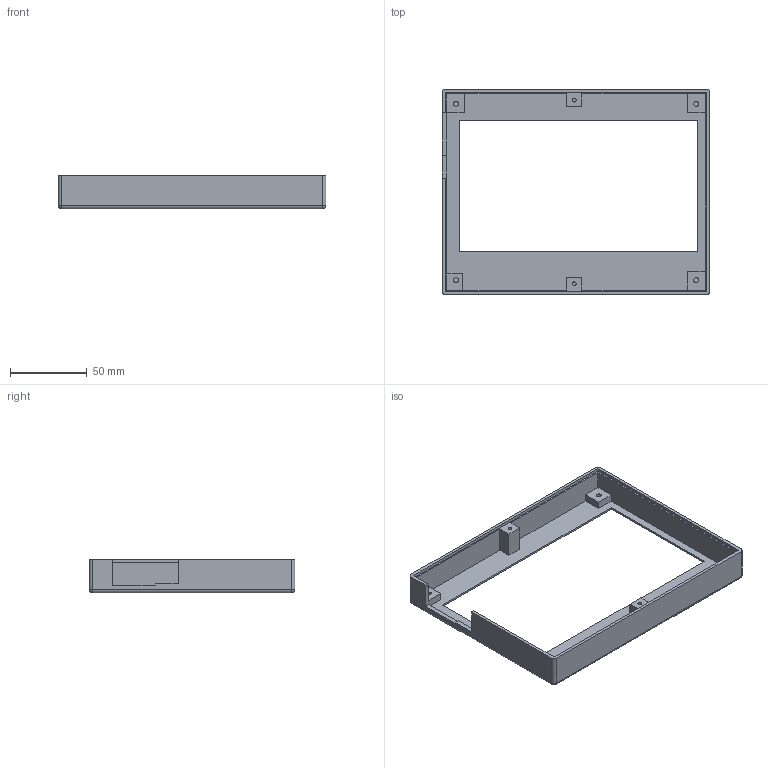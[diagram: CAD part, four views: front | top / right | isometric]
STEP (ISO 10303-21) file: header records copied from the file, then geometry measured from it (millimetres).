
FILE_DESCRIPTION (( 'STEP AP203' ), '1' );
FILE_NAME ('CAPOT_FINAL.STEP', '2017-12-18T11:59:38', ( '' ), ( '' ), 'SwSTEP 2.0', 'SolidWorks 2017', '' );
FILE_SCHEMA (( 'CONFIG_CONTROL_DESIGN' ));
Length unit declared in the file: millimetre
Products named in the file (1): CAPOT_FINAL
Bounding box: 174.9 x 134.27 x 22 mm (x, y, z)
Volume: 64794.8 mm3; surface area: 44759.8 mm2
Topology: 1 solids, 1 shells, 80 faces, 204 edges, 128 vertices
Faces by surface type: plane 56, cylinder 20, bspline 4
Entity records: 2481 total; most frequent: CARTESIAN_POINT 469, ORIENTED_EDGE 400, DIRECTION 394, EDGE_CURVE 200, VECTOR 160, LINE 160, VERTEX_POINT 128, AXIS2_PLACEMENT_3D 117
